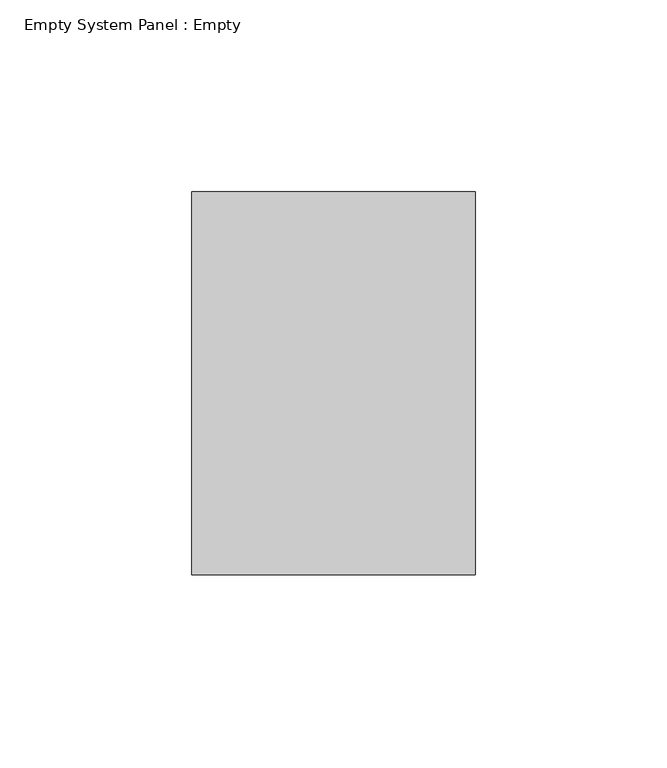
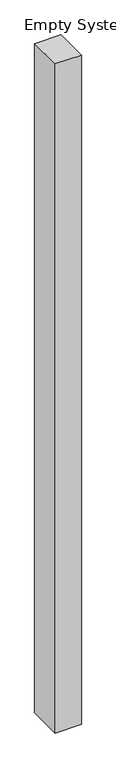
"""IFC4 building model written with IfcOpenShell, lengths in millimetres: plate geometry, Empty System Panel : Empty."""

from ifc_helpers import new_model, si_unit, origin, origin_with_axes, place, context, project, spatial, polyline, outline, extrude, source, transform, mapped, element, save


def empty_system_panel_empty_de76a839(model_context):
    return source(origin(), model_context, "Body", "SweptSolid", [
        extrude(outline(polyline([(37.0, -50.0), (-37.0, -50.0), (-37.0, 50.0), (37.0, 50.0), (37.0, -50.0)])), origin_with_axes(), (0.0, 0.0, 1.0), 2000.0),
    ])


if __name__ == "__main__":
    model = new_model("IFC4")
    model_context = context("Model", 3, world=origin())
    ifc_project = project(units=[si_unit("LENGTHUNIT", "METRE", prefix="MILLI")], contexts=[model_context])
    site = spatial("IfcSite", under=ifc_project)
    building = spatial("IfcBuilding", under=site)
    placement = place(None, origin())
    empty_system_panel_empty_shape = empty_system_panel_empty_de76a839(model_context)
    element("IfcPlate", 1, ObjectType="Empty System Panel : Empty", at=placement, inside=building, context=model_context, shape_type="MappedRepresentation", body=[
        mapped(empty_system_panel_empty_shape, transform((0.0, 0.0, 0.0), x_axis=(1.0, 0.0, 0.0), y_axis=(0.0, 1.0, 0.0), z_axis=(0.0, 0.0, 1.0))),
    ])
    save(model, "model.ifc")
